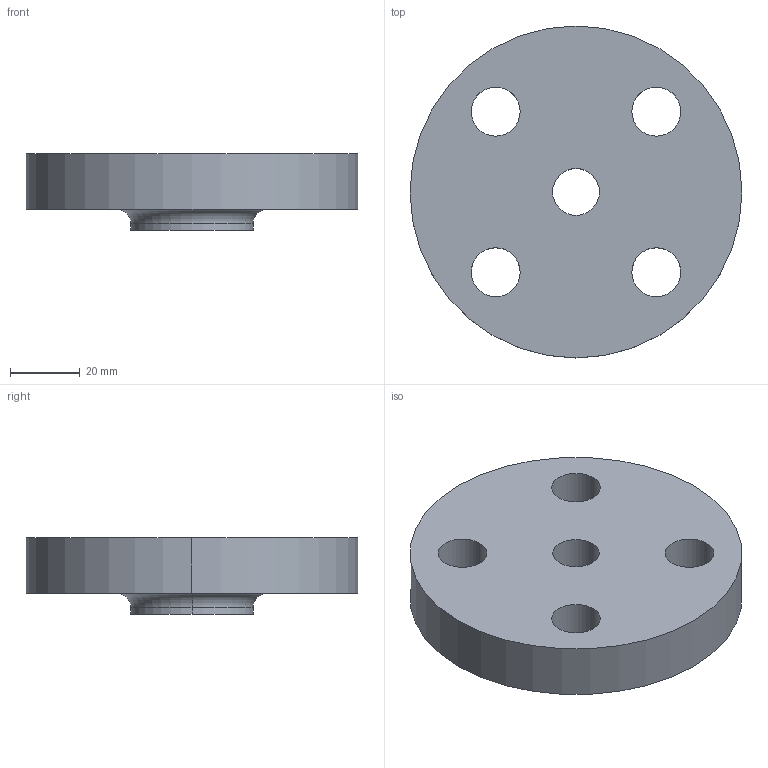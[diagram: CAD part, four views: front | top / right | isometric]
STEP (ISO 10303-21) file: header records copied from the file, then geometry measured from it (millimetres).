
FILE_DESCRIPTION (( 'STEP AP214' ), '1' );
FILE_NAME ('PN40 DN15 Type 13 - Type A Face.STEP', '2018-12-29T14:36:26', ( '' ), ( '' ), 'SwSTEP 2.0', 'SolidWorks 2019', '' );
FILE_SCHEMA (( 'AUTOMOTIVE_DESIGN' ));
Length unit declared in the file: millimetre
Products named in the file (1): PN40 DN15 Type 13 - Type A Face
Bounding box: 95 x 95 x 22 mm (x, y, z)
Volume: 106637.5 mm3; surface area: 21656.5 mm2
Topology: 1 solids, 1 shells, 19 faces, 46 edges, 30 vertices
Faces by surface type: cylinder 14, plane 3, torus 2
Entity records: 630 total; most frequent: DIRECTION 118, CARTESIAN_POINT 96, ORIENTED_EDGE 92, AXIS2_PLACEMENT_3D 52, EDGE_CURVE 46, CIRCLE 32, VERTEX_POINT 30, EDGE_LOOP 30
